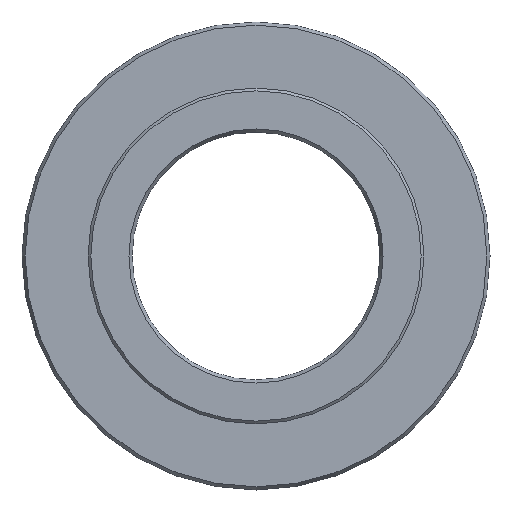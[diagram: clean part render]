
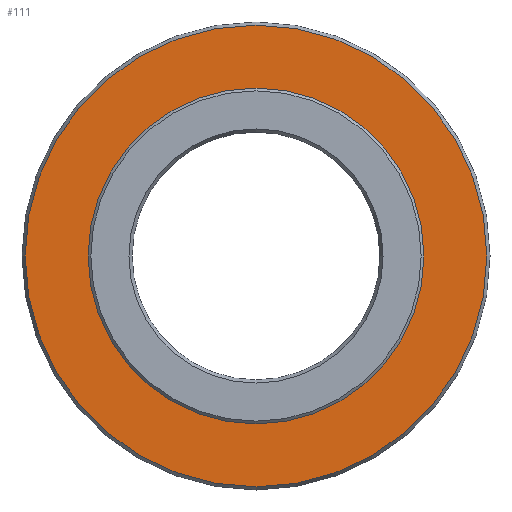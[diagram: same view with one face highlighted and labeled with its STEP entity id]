
A CAD part, left-side view. The second image highlights one B-rep face of the part: STEP entity #111.
In plain terms, the highlighted planar face has unit normal (-1, 0, 0).
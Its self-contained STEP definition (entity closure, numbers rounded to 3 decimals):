
#97=PLANE('',#323);
#111=ADVANCED_FACE('',(#144,#145),#97,.T.);
#144=FACE_BOUND('',#175,.T.);
#145=FACE_BOUND('',#176,.T.);
#175=EDGE_LOOP('',(#214));
#176=EDGE_LOOP('',(#215));
#214=ORIENTED_EDGE('',*,*,#279,.T.);
#215=ORIENTED_EDGE('',*,*,#280,.T.);
#258=VERTEX_POINT('',#461);
#259=VERTEX_POINT('',#463);
#279=EDGE_CURVE('',#258,#258,#298,.T.);
#280=EDGE_CURVE('',#259,#259,#299,.T.);
#298=CIRCLE('',#321,41.923);
#299=CIRCLE('',#322,30.5);
#321=AXIS2_PLACEMENT_3D('',#460,#369,#370);
#322=AXIS2_PLACEMENT_3D('',#462,#371,#372);
#323=AXIS2_PLACEMENT_3D('',#464,#373,#374);
#369=DIRECTION('',(-1.,0.,0.));
#370=DIRECTION('',(0.,0.,1.));
#371=DIRECTION('',(1.,0.,0.));
#372=DIRECTION('',(0.,0.,-1.));
#373=DIRECTION('',(-1.,0.,0.));
#374=DIRECTION('',(0.,0.,1.));
#460=CARTESIAN_POINT('',(0.,0.,0.));
#461=CARTESIAN_POINT('',(0.,0.,41.923));
#462=CARTESIAN_POINT('',(0.,0.,0.));
#463=CARTESIAN_POINT('',(0.,0.,-30.5));
#464=CARTESIAN_POINT('',(0.,42.5,0.));
